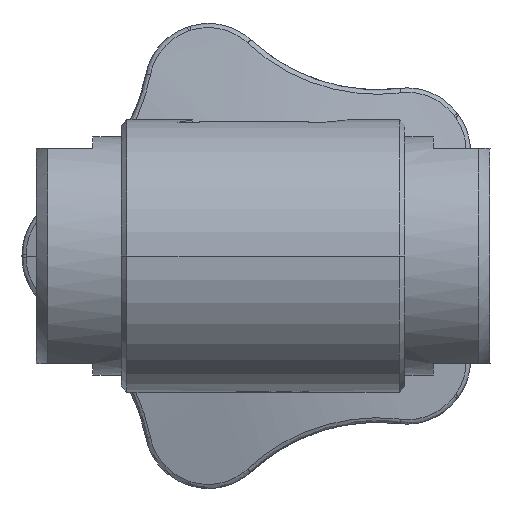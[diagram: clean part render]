
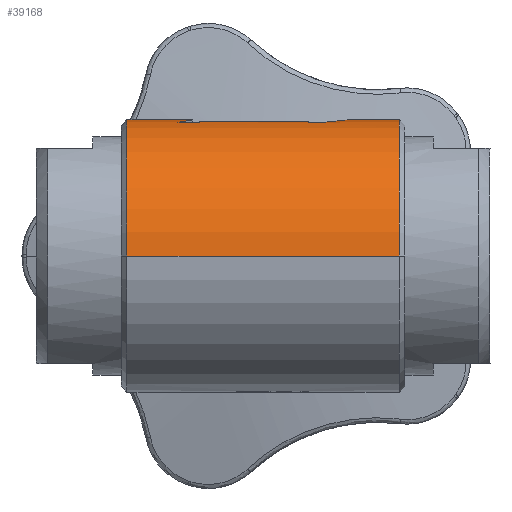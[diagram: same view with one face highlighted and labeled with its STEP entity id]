
A CAD part, front view. The second image highlights one B-rep face of the part: STEP entity #39168.
In plain terms, the highlighted cylindrical face has radius 24 mm (diameter 48 mm), a partial arc.
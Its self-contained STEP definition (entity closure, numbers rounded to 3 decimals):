
#10726=CARTESIAN_POINT('',(24.,0.,0.));
#10727=DIRECTION('',(1.,0.,0.));
#10728=DIRECTION('',(0.,1.,0.));
#10729=AXIS2_PLACEMENT_3D('',#10726,#10727,#10728);
#10734=CARTESIAN_POINT('',(-24.,0.,0.));
#10735=DIRECTION('',(-1.,0.,0.));
#10736=DIRECTION('',(0.,-1.,0.));
#10737=AXIS2_PLACEMENT_3D('',#10734,#10735,#10736);
#10742=DIRECTION('',(1.,0.,0.));
#10743=VECTOR('',#10742,5.);
#10744=CARTESIAN_POINT('',(-24.,24.,0.));
#10745=LINE('',#10744,#10743);
#10749=CARTESIAN_POINT('',(-12.855,19.5,13.991));
#10750=CARTESIAN_POINT('',(-13.591,19.985,
13.315));
#10751=CARTESIAN_POINT('',(-14.905,20.897,
11.895));
#10752=CARTESIAN_POINT('',(-16.464,22.041,
9.612));
#10753=CARTESIAN_POINT('',(-17.63,22.928,
7.238));
#10754=CARTESIAN_POINT('',(-18.428,23.549,
4.847));
#10755=CARTESIAN_POINT('',(-18.9,23.921,
2.408));
#10756=CARTESIAN_POINT('',(-19.,24.,0.799));
#10757=CARTESIAN_POINT('',(-19.,24.,0.));
#10762=CARTESIAN_POINT('',(19.,24.,0.));
#10763=CARTESIAN_POINT('',(19.,24.,0.799));
#10764=CARTESIAN_POINT('',(18.9,23.921,2.408));
#10765=CARTESIAN_POINT('',(18.428,23.549,4.847));
#10766=CARTESIAN_POINT('',(17.63,22.928,7.238));
#10767=CARTESIAN_POINT('',(16.464,22.041,9.611));
#10768=CARTESIAN_POINT('',(14.905,20.897,11.895));
#10769=CARTESIAN_POINT('',(13.591,19.985,13.315));
#10770=CARTESIAN_POINT('',(12.855,19.5,13.991));
#10775=DIRECTION('',(1.,0.,0.));
#10776=VECTOR('',#10775,5.);
#10777=CARTESIAN_POINT('',(19.,24.,0.));
#10778=LINE('',#10777,#10776);
#10782=DIRECTION('',(1.,0.,0.));
#10783=VECTOR('',#10782,2.044);
#10784=CARTESIAN_POINT('',(8.,4.873,23.5));
#10785=LINE('',#10784,#10783);
#10789=CARTESIAN_POINT('',(8.,0.,0.));
#10790=DIRECTION('',(1.,0.,0.));
#10791=DIRECTION('',(0.,0.203,0.979));
#10792=AXIS2_PLACEMENT_3D('',#10789,#10790,#10791);
#10797=DIRECTION('',(1.,0.,0.));
#10798=VECTOR('',#10797,18.);
#10799=CARTESIAN_POINT('',(-10.,3.5,23.743));
#10800=LINE('',#10799,#10798);
#10804=CARTESIAN_POINT('',(-11.017,4.5,23.574));
#10805=CARTESIAN_POINT('',(-10.678,4.167,
23.638));
#10806=CARTESIAN_POINT('',(-10.34,3.834,
23.694));
#10807=CARTESIAN_POINT('',(-10.,3.5,23.743));
#10812=DIRECTION('',(1.,0.,0.));
#10813=VECTOR('',#10812,3.983);
#10814=CARTESIAN_POINT('',(-15.,4.5,23.574));
#10815=LINE('',#10814,#10813);
#10819=CARTESIAN_POINT('',(-15.,4.5,23.574));
#10820=CARTESIAN_POINT('',(-14.14,3.01,
23.859));
#10821=CARTESIAN_POINT('',(-13.274,1.51,24.));
#10822=CARTESIAN_POINT('',(-12.402,0.,24.));
#10827=CARTESIAN_POINT('',(-12.402,0.,24.));
#10828=CARTESIAN_POINT('',(-13.274,-1.51,24.));
#10829=CARTESIAN_POINT('',(-14.14,-3.01,
23.859));
#10830=CARTESIAN_POINT('',(-15.,-4.5,23.574));
#10835=DIRECTION('',(1.,0.,0.));
#10836=VECTOR('',#10835,3.252);
#10837=CARTESIAN_POINT('',(-15.,-4.5,23.574));
#10838=LINE('',#10837,#10836);
#10842=CARTESIAN_POINT('',(-10.,-3.5,23.743));
#10843=CARTESIAN_POINT('',(-10.583,-3.834,
23.694));
#10844=CARTESIAN_POINT('',(-11.166,-4.167,
23.638));
#10845=CARTESIAN_POINT('',(-11.748,-4.5,23.574));
#10850=DIRECTION('',(1.,0.,0.));
#10851=VECTOR('',#10850,18.);
#10852=CARTESIAN_POINT('',(-10.,-3.5,23.743));
#10853=LINE('',#10852,#10851);
#10857=CARTESIAN_POINT('',(8.,0.,0.));
#10858=DIRECTION('',(1.,0.,0.));
#10859=DIRECTION('',(0.,-0.146,0.989));
#10860=AXIS2_PLACEMENT_3D('',#10857,#10858,#10859);
#10865=DIRECTION('',(1.,0.,0.));
#10866=VECTOR('',#10865,2.208);
#10867=CARTESIAN_POINT('',(8.,-4.873,23.5));
#10868=LINE('',#10867,#10866);
#10872=CARTESIAN_POINT('',(15.,0.,24.));
#10873=CARTESIAN_POINT('',(13.394,-1.633,24.));
#10874=CARTESIAN_POINT('',(11.797,-3.258,
23.835));
#10875=CARTESIAN_POINT('',(10.208,-4.873,23.5));
#10880=CARTESIAN_POINT('',(10.044,4.873,23.5));
#10881=CARTESIAN_POINT('',(11.687,3.257,23.835));
#10882=CARTESIAN_POINT('',(13.339,1.633,24.));
#10883=CARTESIAN_POINT('',(15.,0.,24.));
#12109=CARTESIAN_POINT('',(19.,24.,0.));
#12114=CARTESIAN_POINT('',(-19.,24.,0.));
#12135=DIRECTION('',(1.,0.,0.));
#12136=VECTOR('',#12135,48.);
#12137=CARTESIAN_POINT('',(-24.,-24.,0.));
#12138=LINE('',#12137,#12136);
#13225=DIRECTION('',(1.,0.,0.));
#13226=VECTOR('',#13225,25.71);
#13227=CARTESIAN_POINT('',(-12.855,19.5,13.991));
#13228=LINE('',#13227,#13226);
#29371=VERTEX_POINT('',#12109);
#29372=VERTEX_POINT('',#10770);
#29373=VERTEX_POINT('',#12114);
#29375=CARTESIAN_POINT('',(-12.855,19.5,13.991));
#29376=VERTEX_POINT('',#29375);
#29432=CARTESIAN_POINT('',(-24.,24.,0.));
#29433=CARTESIAN_POINT('',(-24.,-24.,0.));
#29434=VERTEX_POINT('',#29432);
#29435=VERTEX_POINT('',#29433);
#29440=CARTESIAN_POINT('',(24.,-24.,0.));
#29441=CARTESIAN_POINT('',(24.,24.,0.));
#29442=VERTEX_POINT('',#29440);
#29443=VERTEX_POINT('',#29441);
#29488=CARTESIAN_POINT('',(8.,4.873,23.5));
#29489=CARTESIAN_POINT('',(10.044,4.873,23.5));
#29490=VERTEX_POINT('',#29488);
#29491=VERTEX_POINT('',#29489);
#29492=CARTESIAN_POINT('',(8.,-4.873,23.5));
#29493=CARTESIAN_POINT('',(10.208,-4.873,23.5));
#29494=VERTEX_POINT('',#29492);
#29495=VERTEX_POINT('',#29493);
#29496=VERTEX_POINT('',#10804);
#29497=VERTEX_POINT('',#10807);
#29498=CARTESIAN_POINT('',(-15.,4.5,23.574));
#29499=VERTEX_POINT('',#29498);
#29500=VERTEX_POINT('',#10822);
#29501=VERTEX_POINT('',#10830);
#29502=CARTESIAN_POINT('',(-11.748,-4.5,23.574));
#29503=VERTEX_POINT('',#29502);
#29504=VERTEX_POINT('',#10842);
#29505=CARTESIAN_POINT('',(8.,-3.5,23.743));
#29506=VERTEX_POINT('',#29505);
#29507=VERTEX_POINT('',#10872);
#29508=CARTESIAN_POINT('',(8.,3.5,23.743));
#29509=VERTEX_POINT('',#29508);
#39116=CARTESIAN_POINT('',(-25.,0.,0.));
#39117=DIRECTION('',(1.,0.,0.));
#39118=DIRECTION('',(0.,-1.,0.));
#39119=AXIS2_PLACEMENT_3D('',#39116,#39117,#39118);
#39120=CYLINDRICAL_SURFACE('',#39119,24.);
#39121=ORIENTED_EDGE('',*,*,#39018,.T.);
#39123=ORIENTED_EDGE('',*,*,#39122,.F.);
#39125=ORIENTED_EDGE('',*,*,#39124,.T.);
#39127=ORIENTED_EDGE('',*,*,#39126,.T.);
#39129=ORIENTED_EDGE('',*,*,#39128,.F.);
#39131=ORIENTED_EDGE('',*,*,#39130,.T.);
#39133=ORIENTED_EDGE('',*,*,#39132,.F.);
#39135=ORIENTED_EDGE('',*,*,#39134,.T.);
#39136=EDGE_LOOP('',(#39121,#39123,#39125,#39127,#39129,#39131,#39133,#39135));
#39137=FACE_OUTER_BOUND('',#39136,.F.);
#39139=ORIENTED_EDGE('',*,*,#39138,.F.);
#39141=ORIENTED_EDGE('',*,*,#39140,.T.);
#39143=ORIENTED_EDGE('',*,*,#39142,.F.);
#39145=ORIENTED_EDGE('',*,*,#39144,.F.);
#39147=ORIENTED_EDGE('',*,*,#39146,.F.);
#39149=ORIENTED_EDGE('',*,*,#39148,.T.);
#39151=ORIENTED_EDGE('',*,*,#39150,.T.);
#39153=ORIENTED_EDGE('',*,*,#39152,.T.);
#39155=ORIENTED_EDGE('',*,*,#39154,.F.);
#39157=ORIENTED_EDGE('',*,*,#39156,.T.);
#39159=ORIENTED_EDGE('',*,*,#39158,.T.);
#39161=ORIENTED_EDGE('',*,*,#39160,.T.);
#39163=ORIENTED_EDGE('',*,*,#39162,.F.);
#39165=ORIENTED_EDGE('',*,*,#39164,.F.);
#39166=EDGE_LOOP('',(#39139,#39141,#39143,#39145,#39147,#39149,#39151,#39153,
#39155,#39157,#39159,#39161,#39163,#39165));
#39167=FACE_BOUND('',#39166,.F.);
#39168=ADVANCED_FACE('',(#39137,#39167),#39120,.T.);
#10730=CIRCLE('',#10729,24.);
#10738=CIRCLE('',#10737,24.);
#10758=B_SPLINE_CURVE_WITH_KNOTS('',3,(#10749,#10750,#10751,#10752,#10753,
#10754,#10755,#10756,#10757),.UNSPECIFIED.,.F.,.F.,(4,1,1,1,1,1,4),(0.,
0.167,0.333,0.5,0.667,0.833,
1.),.UNSPECIFIED.);
#10771=B_SPLINE_CURVE_WITH_KNOTS('',3,(#10762,#10763,#10764,#10765,#10766,
#10767,#10768,#10769,#10770),.UNSPECIFIED.,.F.,.F.,(4,1,1,1,1,1,4),(0.,
0.167,0.333,0.5,0.667,0.833,
1.),.UNSPECIFIED.);
#10793=CIRCLE('',#10792,24.);
#10808=B_SPLINE_CURVE_WITH_KNOTS('',3,(#10804,#10805,#10806,#10807),
.UNSPECIFIED.,.F.,.F.,(4,4),(0.,1.),.UNSPECIFIED.);
#10823=B_SPLINE_CURVE_WITH_KNOTS('',3,(#10819,#10820,#10821,#10822),
.UNSPECIFIED.,.F.,.F.,(4,4),(0.,1.),.UNSPECIFIED.);
#10831=B_SPLINE_CURVE_WITH_KNOTS('',3,(#10827,#10828,#10829,#10830),
.UNSPECIFIED.,.F.,.F.,(4,4),(0.,1.),.UNSPECIFIED.);
#10846=B_SPLINE_CURVE_WITH_KNOTS('',3,(#10842,#10843,#10844,#10845),
.UNSPECIFIED.,.F.,.F.,(4,4),(0.,1.),.UNSPECIFIED.);
#10861=CIRCLE('',#10860,24.);
#10876=B_SPLINE_CURVE_WITH_KNOTS('',3,(#10872,#10873,#10874,#10875),
.UNSPECIFIED.,.F.,.F.,(4,4),(0.,1.),.UNSPECIFIED.);
#10884=B_SPLINE_CURVE_WITH_KNOTS('',3,(#10880,#10881,#10882,#10883),
.UNSPECIFIED.,.F.,.F.,(4,4),(0.,1.),.UNSPECIFIED.);
#39018=EDGE_CURVE('',#29443,#29442,#10730,.T.);
#39122=EDGE_CURVE('',#29435,#29442,#12138,.T.);
#39124=EDGE_CURVE('',#29435,#29434,#10738,.T.);
#39126=EDGE_CURVE('',#29434,#29373,#10745,.T.);
#39128=EDGE_CURVE('',#29376,#29373,#10758,.T.);
#39130=EDGE_CURVE('',#29376,#29372,#13228,.T.);
#39132=EDGE_CURVE('',#29371,#29372,#10771,.T.);
#39134=EDGE_CURVE('',#29371,#29443,#10778,.T.);
#39138=EDGE_CURVE('',#29490,#29491,#10785,.T.);
#39140=EDGE_CURVE('',#29490,#29509,#10793,.T.);
#39142=EDGE_CURVE('',#29497,#29509,#10800,.T.);
#39144=EDGE_CURVE('',#29496,#29497,#10808,.T.);
#39146=EDGE_CURVE('',#29499,#29496,#10815,.T.);
#39148=EDGE_CURVE('',#29499,#29500,#10823,.T.);
#39150=EDGE_CURVE('',#29500,#29501,#10831,.T.);
#39152=EDGE_CURVE('',#29501,#29503,#10838,.T.);
#39154=EDGE_CURVE('',#29504,#29503,#10846,.T.);
#39156=EDGE_CURVE('',#29504,#29506,#10853,.T.);
#39158=EDGE_CURVE('',#29506,#29494,#10861,.T.);
#39160=EDGE_CURVE('',#29494,#29495,#10868,.T.);
#39162=EDGE_CURVE('',#29507,#29495,#10876,.T.);
#39164=EDGE_CURVE('',#29491,#29507,#10884,.T.);
